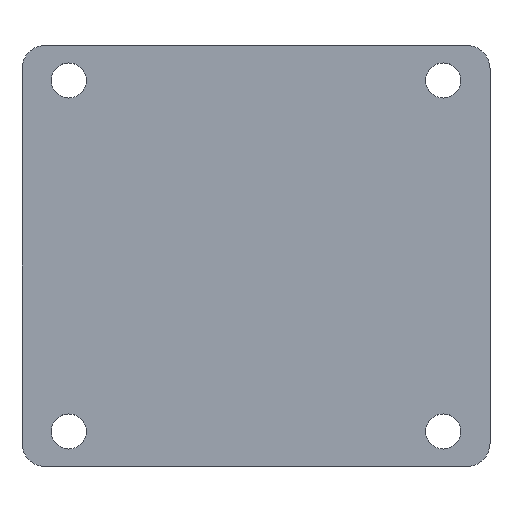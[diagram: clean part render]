
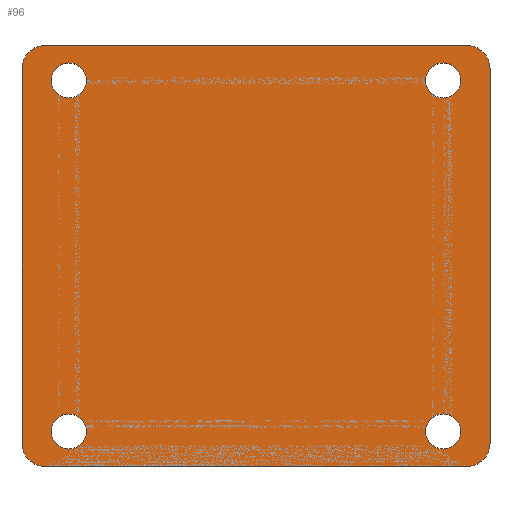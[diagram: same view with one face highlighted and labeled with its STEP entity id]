
A CAD part, top view. The second image highlights one B-rep face of the part: STEP entity #96.
In plain terms, the highlighted planar face has unit normal (0, 0, 1).
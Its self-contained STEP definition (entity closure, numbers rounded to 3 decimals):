
#56=FACE_BOUND('',#152,.T.);
#57=FACE_BOUND('',#153,.T.);
#58=FACE_BOUND('',#154,.T.);
#59=FACE_BOUND('',#155,.T.);
#60=FACE_BOUND('',#156,.T.);
#96=ADVANCED_FACE('',(#56,#57,#58,#59,#60),#124,.T.);
#124=PLANE('',#643);
#152=EDGE_LOOP('',(#216));
#153=EDGE_LOOP('',(#217));
#154=EDGE_LOOP('',(#218));
#155=EDGE_LOOP('',(#219));
#156=EDGE_LOOP('',(#220,#221,#222,#223,#224,#225,#226,#227));
#216=ORIENTED_EDGE('',*,*,#392,.T.);
#217=ORIENTED_EDGE('',*,*,#393,.T.);
#218=ORIENTED_EDGE('',*,*,#394,.T.);
#219=ORIENTED_EDGE('',*,*,#395,.T.);
#220=ORIENTED_EDGE('',*,*,#386,.T.);
#221=ORIENTED_EDGE('',*,*,#396,.T.);
#222=ORIENTED_EDGE('',*,*,#388,.T.);
#223=ORIENTED_EDGE('',*,*,#397,.T.);
#224=ORIENTED_EDGE('',*,*,#376,.T.);
#225=ORIENTED_EDGE('',*,*,#398,.T.);
#226=ORIENTED_EDGE('',*,*,#382,.T.);
#227=ORIENTED_EDGE('',*,*,#399,.T.);
#328=VERTEX_POINT('',#880);
#329=VERTEX_POINT('',#881);
#334=VERTEX_POINT('',#892);
#335=VERTEX_POINT('',#894);
#338=VERTEX_POINT('',#901);
#339=VERTEX_POINT('',#903);
#340=VERTEX_POINT('',#907);
#341=VERTEX_POINT('',#908);
#344=VERTEX_POINT('',#916);
#345=VERTEX_POINT('',#918);
#346=VERTEX_POINT('',#920);
#347=VERTEX_POINT('',#922);
#376=EDGE_CURVE('',#328,#329,#516,.T.);
#382=EDGE_CURVE('',#335,#334,#522,.T.);
#386=EDGE_CURVE('',#339,#338,#526,.T.);
#388=EDGE_CURVE('',#340,#341,#528,.T.);
#392=EDGE_CURVE('',#344,#344,#448,.T.);
#393=EDGE_CURVE('',#345,#345,#449,.T.);
#394=EDGE_CURVE('',#346,#346,#450,.T.);
#395=EDGE_CURVE('',#347,#347,#451,.T.);
#396=EDGE_CURVE('',#338,#340,#452,.T.);
#397=EDGE_CURVE('',#341,#328,#453,.T.);
#398=EDGE_CURVE('',#329,#335,#454,.T.);
#399=EDGE_CURVE('',#334,#339,#455,.T.);
#448=CIRCLE('',#635,1.5);
#449=CIRCLE('',#636,1.5);
#450=CIRCLE('',#637,1.5);
#451=CIRCLE('',#638,1.5);
#452=CIRCLE('',#639,2.);
#453=CIRCLE('',#640,2.);
#454=CIRCLE('',#641,2.);
#455=CIRCLE('',#642,2.);
#516=LINE('',#879,#552);
#522=LINE('',#893,#558);
#526=LINE('',#902,#562);
#528=LINE('',#906,#564);
#552=VECTOR('',#713,1.);
#558=VECTOR('',#721,1.);
#562=VECTOR('',#727,1.);
#564=VECTOR('',#731,1.);
#635=AXIS2_PLACEMENT_3D('',#915,#737,#738);
#636=AXIS2_PLACEMENT_3D('',#917,#739,#740);
#637=AXIS2_PLACEMENT_3D('',#919,#741,#742);
#638=AXIS2_PLACEMENT_3D('',#921,#743,#744);
#639=AXIS2_PLACEMENT_3D('',#923,#745,#746);
#640=AXIS2_PLACEMENT_3D('',#924,#747,#748);
#641=AXIS2_PLACEMENT_3D('',#925,#749,#750);
#642=AXIS2_PLACEMENT_3D('',#926,#751,#752);
#643=AXIS2_PLACEMENT_3D('',#927,#753,#754);
#713=DIRECTION('',(0.,-1.,0.));
#721=DIRECTION('',(1.,0.,0.));
#727=DIRECTION('',(0.,1.,0.));
#731=DIRECTION('',(-1.,0.,0.));
#737=DIRECTION('',(0.,0.,-1.));
#738=DIRECTION('',(-1.,0.,0.));
#739=DIRECTION('',(0.,0.,-1.));
#740=DIRECTION('',(-1.,0.,0.));
#741=DIRECTION('',(0.,0.,-1.));
#742=DIRECTION('',(-1.,0.,0.));
#743=DIRECTION('',(0.,0.,-1.));
#744=DIRECTION('',(-1.,0.,0.));
#745=DIRECTION('',(0.,0.,1.));
#746=DIRECTION('',(1.,0.,0.));
#747=DIRECTION('',(0.,0.,1.));
#748=DIRECTION('',(1.,0.,0.));
#749=DIRECTION('',(0.,0.,1.));
#750=DIRECTION('',(1.,0.,0.));
#751=DIRECTION('',(0.,0.,1.));
#752=DIRECTION('',(1.,0.,0.));
#753=DIRECTION('',(0.,0.,1.));
#754=DIRECTION('',(1.,0.,0.));
#879=CARTESIAN_POINT('',(-20.,18.,1.));
#880=CARTESIAN_POINT('',(-20.,16.,1.));
#881=CARTESIAN_POINT('',(-20.,-16.,1.));
#892=CARTESIAN_POINT('',(18.,-18.,1.));
#893=CARTESIAN_POINT('',(-20.,-18.,1.));
#894=CARTESIAN_POINT('',(-18.,-18.,1.));
#901=CARTESIAN_POINT('',(20.,16.,1.));
#902=CARTESIAN_POINT('',(20.,-18.,1.));
#903=CARTESIAN_POINT('',(20.,-16.,1.));
#906=CARTESIAN_POINT('',(20.,18.,1.));
#907=CARTESIAN_POINT('',(18.,18.,1.));
#908=CARTESIAN_POINT('',(-18.,18.,1.));
#915=CARTESIAN_POINT('',(16.,15.,1.));
#916=CARTESIAN_POINT('',(14.5,15.,1.));
#917=CARTESIAN_POINT('',(16.,-15.,1.));
#918=CARTESIAN_POINT('',(14.5,-15.,1.));
#919=CARTESIAN_POINT('',(-16.,15.,1.));
#920=CARTESIAN_POINT('',(-17.5,15.,1.));
#921=CARTESIAN_POINT('',(-16.,-15.,1.));
#922=CARTESIAN_POINT('',(-17.5,-15.,1.));
#923=CARTESIAN_POINT('',(18.,16.,1.));
#924=CARTESIAN_POINT('',(-18.,16.,1.));
#925=CARTESIAN_POINT('',(-18.,-16.,1.));
#926=CARTESIAN_POINT('',(18.,-16.,1.));
#927=CARTESIAN_POINT('',(0.,0.,1.));
